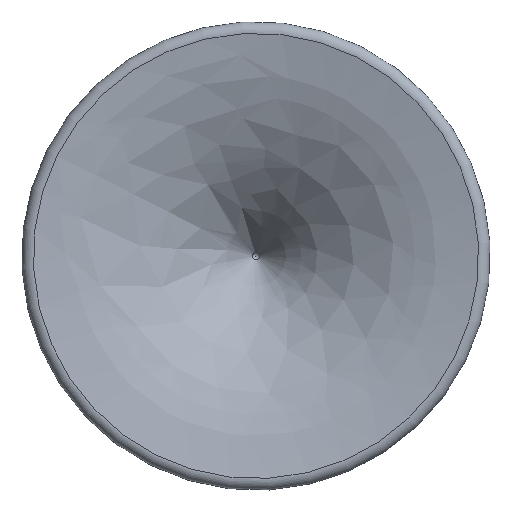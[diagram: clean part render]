
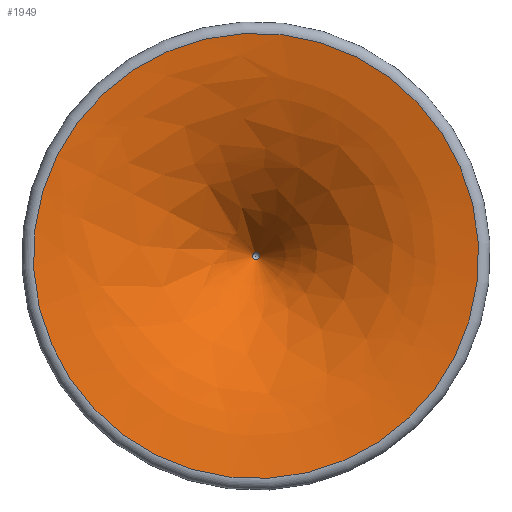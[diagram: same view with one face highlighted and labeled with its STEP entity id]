
A CAD part, top view. The second image highlights one B-rep face of the part: STEP entity #1949.
In plain terms, the highlighted free-form (B-spline) face has degree [2, 2] with [3, 9] control points.
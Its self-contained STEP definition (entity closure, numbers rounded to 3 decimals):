
#21=(
BOUNDED_SURFACE()
B_SPLINE_SURFACE(2,2,((#3652,#3653,#3654,#3655,#3656,#3657,#3658,#3659,
#3660),(#3661,#3662,#3663,#3664,#3665,#3666,#3667,#3668,#3669),(#3670,#3671,
#3672,#3673,#3674,#3675,#3676,#3677,#3678)),.UNSPECIFIED.,.F.,.T.,.F.)
B_SPLINE_SURFACE_WITH_KNOTS((3,3),(3,2,2,2,3),(1.687,2.562),
(-3.142,-1.571,0.,1.571,3.142),
 .UNSPECIFIED.)
GEOMETRIC_REPRESENTATION_ITEM()
RATIONAL_B_SPLINE_SURFACE(((1.,0.707,1.,0.707,1.,
0.707,1.,0.707,1.),(0.906,0.64,
0.906,0.64,0.906,0.64,
0.906,0.64,0.906),(1.,0.707,
1.,0.707,1.,0.707,1.,0.707,1.)))
REPRESENTATION_ITEM('')
SURFACE()
);
#355=FACE_OUTER_BOUND('',#515,.T.);
#515=EDGE_LOOP('',(#1646,#1647,#1648,#1649));
#851=CIRCLE('',#2389,213.842);
#853=CIRCLE('',#2391,3.347);
#854=CIRCLE('',#2392,292.);
#1017=VERTEX_POINT('',#3649);
#1018=VERTEX_POINT('',#3679);
#1235=EDGE_CURVE('',#1017,#1017,#851,.T.);
#1237=EDGE_CURVE('',#1018,#1018,#853,.T.);
#1238=EDGE_CURVE('',#1018,#1017,#854,.T.);
#1646=ORIENTED_EDGE('',*,*,#1237,.F.);
#1647=ORIENTED_EDGE('',*,*,#1238,.T.);
#1648=ORIENTED_EDGE('',*,*,#1235,.T.);
#1649=ORIENTED_EDGE('',*,*,#1238,.F.);
#1949=ADVANCED_FACE('',(#355),#21,.F.);
#2389=AXIS2_PLACEMENT_3D('',#3650,#2926,#2927);
#2391=AXIS2_PLACEMENT_3D('',#3680,#2930,#2931);
#2392=AXIS2_PLACEMENT_3D('',#3681,#2932,#2933);
#2926=DIRECTION('center_axis',(0.,0.,1.));
#2927=DIRECTION('ref_axis',(1.,0.,0.));
#2930=DIRECTION('center_axis',(0.,0.,1.));
#2931=DIRECTION('ref_axis',(1.,0.,0.));
#2932=DIRECTION('center_axis',(0.,-1.,0.));
#2933=DIRECTION('ref_axis',(-1.,0.,0.));
#3649=CARTESIAN_POINT('',(-213.842,0.,407.933));
#3650=CARTESIAN_POINT('Origin',(0.,0.,407.933));
#3652=CARTESIAN_POINT('Ctrl Pts',(-213.842,0.,407.933));
#3653=CARTESIAN_POINT('Ctrl Pts',(-213.842,-213.842,407.933));
#3654=CARTESIAN_POINT('Ctrl Pts',(0.,-213.842,407.933));
#3655=CARTESIAN_POINT('Ctrl Pts',(213.842,-213.842,407.933));
#3656=CARTESIAN_POINT('Ctrl Pts',(213.842,0.,407.933));
#3657=CARTESIAN_POINT('Ctrl Pts',(213.842,213.842,407.933));
#3658=CARTESIAN_POINT('Ctrl Pts',(0.,213.842,407.933));
#3659=CARTESIAN_POINT('Ctrl Pts',(-213.842,213.842,407.933));
#3660=CARTESIAN_POINT('Ctrl Pts',(-213.842,0.,407.933));
#3661=CARTESIAN_POINT('Ctrl Pts',(-78.157,0.,392.108));
#3662=CARTESIAN_POINT('Ctrl Pts',(-78.157,-78.157,392.108));
#3663=CARTESIAN_POINT('Ctrl Pts',(0.,-78.157,392.108));
#3664=CARTESIAN_POINT('Ctrl Pts',(78.157,-78.157,392.108));
#3665=CARTESIAN_POINT('Ctrl Pts',(78.157,0.,392.108));
#3666=CARTESIAN_POINT('Ctrl Pts',(78.157,78.157,392.108));
#3667=CARTESIAN_POINT('Ctrl Pts',(0.,78.157,392.108));
#3668=CARTESIAN_POINT('Ctrl Pts',(-78.157,78.157,392.108));
#3669=CARTESIAN_POINT('Ctrl Pts',(-78.157,0.,392.108));
#3670=CARTESIAN_POINT('Ctrl Pts',(-3.347,0.,277.809));
#3671=CARTESIAN_POINT('Ctrl Pts',(-3.347,-3.347,277.809));
#3672=CARTESIAN_POINT('Ctrl Pts',(0.,-3.347,277.809));
#3673=CARTESIAN_POINT('Ctrl Pts',(3.347,-3.347,277.809));
#3674=CARTESIAN_POINT('Ctrl Pts',(3.347,0.,277.809));
#3675=CARTESIAN_POINT('Ctrl Pts',(3.347,3.347,277.809));
#3676=CARTESIAN_POINT('Ctrl Pts',(0.,3.347,277.809));
#3677=CARTESIAN_POINT('Ctrl Pts',(-3.347,3.347,277.809));
#3678=CARTESIAN_POINT('Ctrl Pts',(-3.347,0.,277.809));
#3679=CARTESIAN_POINT('',(-3.347,0.,277.809));
#3680=CARTESIAN_POINT('Origin',(0.,0.,277.809));
#3681=CARTESIAN_POINT('Origin',(-247.667,0.,
117.899));
